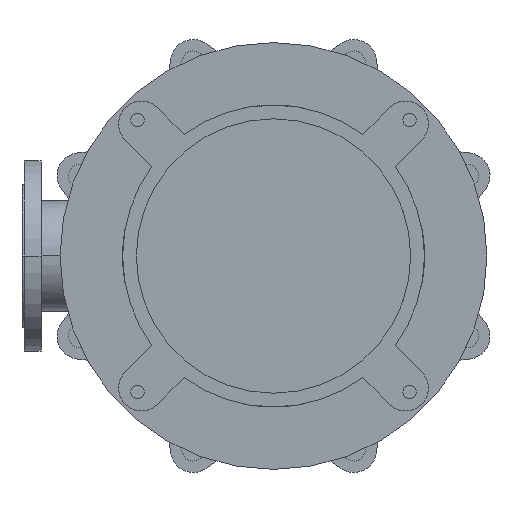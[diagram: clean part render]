
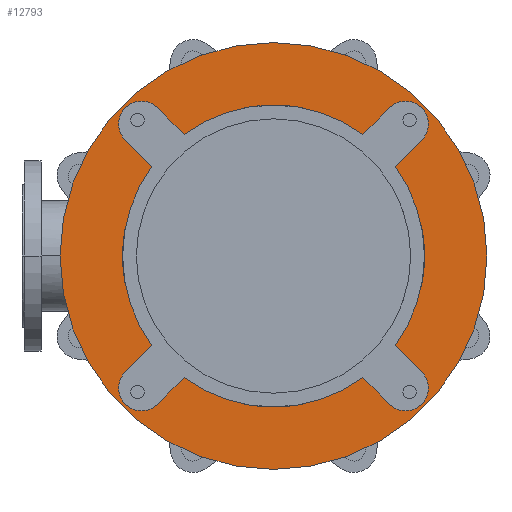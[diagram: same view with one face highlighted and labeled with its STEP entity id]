
A CAD part, front view. The second image highlights one B-rep face of the part: STEP entity #12793.
In plain terms, the highlighted planar face has unit normal (0, -1, 0).
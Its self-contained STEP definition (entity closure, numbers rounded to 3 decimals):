
#2484=CARTESIAN_POINT('',(0.,-25.,0.));
#2485=DIRECTION('',(0.,1.,0.));
#2486=DIRECTION('',(0.592,0.,-0.806));
#2487=AXIS2_PLACEMENT_3D('',#2484,#2485,#2486);
#2502=CARTESIAN_POINT('',(0.,-25.,0.));
#2503=DIRECTION('',(0.,1.,0.));
#2504=DIRECTION('',(0.806,0.,0.592));
#2505=AXIS2_PLACEMENT_3D('',#2502,#2503,#2504);
#2529=CARTESIAN_POINT('',(0.,-25.,0.));
#2530=DIRECTION('',(0.,1.,0.));
#2531=DIRECTION('',(-0.806,0.,-0.592));
#2532=AXIS2_PLACEMENT_3D('',#2529,#2530,#2531);
#2538=CARTESIAN_POINT('',(0.,-25.,0.));
#2539=DIRECTION('',(0.,1.,0.));
#2540=DIRECTION('',(-0.592,0.,0.806));
#2541=AXIS2_PLACEMENT_3D('',#2538,#2539,#2540);
#2716=CARTESIAN_POINT('',(0.,-25.,0.));
#2717=DIRECTION('',(0.,-1.,0.));
#2718=DIRECTION('',(-1.,0.,0.));
#2719=AXIS2_PLACEMENT_3D('',#2716,#2717,#2718);
#2721=CARTESIAN_POINT('',(0.,-25.,0.));
#2722=DIRECTION('',(0.,1.,0.));
#2723=DIRECTION('',(-1.,0.,0.));
#2724=AXIS2_PLACEMENT_3D('',#2721,#2722,#2723);
#2726=CARTESIAN_POINT('',(-173.241,-25.,173.241));
#2727=DIRECTION('',(0.,-1.,0.));
#2728=DIRECTION('',(0.707,0.,0.707));
#2729=AXIS2_PLACEMENT_3D('',#2726,#2727,#2728);
#2731=DIRECTION('',(0.707,0.,-0.707));
#2732=VECTOR('',#2731,49.286);
#2733=CARTESIAN_POINT('',(-194.454,-25.,152.028));
#2734=LINE('',#2733,#2732);
#2735=DIRECTION('',(-0.707,0.,-0.707));
#2736=VECTOR('',#2735,49.286);
#2737=CARTESIAN_POINT('',(-159.604,-25.,-117.178));
#2738=LINE('',#2737,#2736);
#2739=CARTESIAN_POINT('',(-173.241,-25.,-173.241));
#2740=DIRECTION('',(0.,-1.,0.));
#2741=DIRECTION('',(-0.707,0.,0.707));
#2742=AXIS2_PLACEMENT_3D('',#2739,#2740,#2741);
#2744=DIRECTION('',(0.707,0.,0.707));
#2745=VECTOR('',#2744,49.286);
#2746=CARTESIAN_POINT('',(-152.028,-25.,-194.454));
#2747=LINE('',#2746,#2745);
#2748=DIRECTION('',(0.707,0.,-0.707));
#2749=VECTOR('',#2748,49.286);
#2750=CARTESIAN_POINT('',(117.178,-25.,-159.604));
#2751=LINE('',#2750,#2749);
#2752=CARTESIAN_POINT('',(173.241,-25.,-173.241));
#2753=DIRECTION('',(0.,-1.,0.));
#2754=DIRECTION('',(-0.707,0.,-0.707));
#2755=AXIS2_PLACEMENT_3D('',#2752,#2753,#2754);
#2757=DIRECTION('',(-0.707,0.,0.707));
#2758=VECTOR('',#2757,49.286);
#2759=CARTESIAN_POINT('',(194.454,-25.,-152.028));
#2760=LINE('',#2759,#2758);
#2761=DIRECTION('',(0.707,0.,0.707));
#2762=VECTOR('',#2761,49.286);
#2763=CARTESIAN_POINT('',(159.604,-25.,117.178));
#2764=LINE('',#2763,#2762);
#2765=CARTESIAN_POINT('',(173.241,-25.,173.241));
#2766=DIRECTION('',(0.,-1.,0.));
#2767=DIRECTION('',(0.707,0.,-0.707));
#2768=AXIS2_PLACEMENT_3D('',#2765,#2766,#2767);
#2770=DIRECTION('',(-0.707,0.,-0.707));
#2771=VECTOR('',#2770,49.286);
#2772=CARTESIAN_POINT('',(152.028,-25.,194.454));
#2773=LINE('',#2772,#2771);
#2774=DIRECTION('',(-0.707,0.,0.707));
#2775=VECTOR('',#2774,49.286);
#2776=CARTESIAN_POINT('',(-117.178,-25.,159.604));
#2777=LINE('',#2776,#2775);
#8320=CARTESIAN_POINT('',(-280.,-25.,0.));
#8321=CARTESIAN_POINT('',(280.,-25.,0.));
#8322=VERTEX_POINT('',#8320);
#8323=VERTEX_POINT('',#8321);
#8344=CARTESIAN_POINT('',(-194.454,-25.,-152.028));
#8345=CARTESIAN_POINT('',(-152.028,-25.,-194.454));
#8346=VERTEX_POINT('',#8344);
#8347=VERTEX_POINT('',#8345);
#8348=CARTESIAN_POINT('',(-117.178,-25.,-159.604));
#8349=VERTEX_POINT('',#8348);
#8350=CARTESIAN_POINT('',(-159.604,-25.,-117.178));
#8351=VERTEX_POINT('',#8350);
#8360=CARTESIAN_POINT('',(152.028,-25.,-194.454));
#8361=CARTESIAN_POINT('',(194.454,-25.,-152.028));
#8362=VERTEX_POINT('',#8360);
#8363=VERTEX_POINT('',#8361);
#8364=CARTESIAN_POINT('',(159.604,-25.,-117.178));
#8365=VERTEX_POINT('',#8364);
#8366=CARTESIAN_POINT('',(117.178,-25.,-159.604));
#8367=VERTEX_POINT('',#8366);
#8376=CARTESIAN_POINT('',(194.454,-25.,152.028));
#8377=CARTESIAN_POINT('',(152.028,-25.,194.454));
#8378=VERTEX_POINT('',#8376);
#8379=VERTEX_POINT('',#8377);
#8380=CARTESIAN_POINT('',(117.178,-25.,159.604));
#8381=VERTEX_POINT('',#8380);
#8382=CARTESIAN_POINT('',(159.604,-25.,117.178));
#8383=VERTEX_POINT('',#8382);
#8392=CARTESIAN_POINT('',(-152.028,-25.,194.454));
#8393=CARTESIAN_POINT('',(-194.454,-25.,152.028));
#8394=VERTEX_POINT('',#8392);
#8395=VERTEX_POINT('',#8393);
#8396=CARTESIAN_POINT('',(-159.604,-25.,117.178));
#8397=VERTEX_POINT('',#8396);
#8398=CARTESIAN_POINT('',(-117.178,-25.,159.604));
#8399=VERTEX_POINT('',#8398);
#12753=CARTESIAN_POINT('',(0.,-25.,0.));
#12754=DIRECTION('',(0.,-1.,0.));
#12755=DIRECTION('',(-1.,0.,0.));
#12756=AXIS2_PLACEMENT_3D('',#12753,#12754,#12755);
#12757=PLANE('',#12756);
#12759=ORIENTED_EDGE('',*,*,#12758,.F.);
#12761=ORIENTED_EDGE('',*,*,#12760,.T.);
#12762=EDGE_LOOP('',(#12759,#12761));
#12763=FACE_OUTER_BOUND('',#12762,.F.);
#12765=ORIENTED_EDGE('',*,*,#12764,.T.);
#12767=ORIENTED_EDGE('',*,*,#12766,.T.);
#12768=ORIENTED_EDGE('',*,*,#12706,.F.);
#12770=ORIENTED_EDGE('',*,*,#12769,.T.);
#12772=ORIENTED_EDGE('',*,*,#12771,.T.);
#12774=ORIENTED_EDGE('',*,*,#12773,.T.);
#12775=ORIENTED_EDGE('',*,*,#12659,.F.);
#12776=ORIENTED_EDGE('',*,*,#12743,.T.);
#12778=ORIENTED_EDGE('',*,*,#12777,.T.);
#12780=ORIENTED_EDGE('',*,*,#12779,.T.);
#12781=ORIENTED_EDGE('',*,*,#12680,.F.);
#12783=ORIENTED_EDGE('',*,*,#12782,.T.);
#12785=ORIENTED_EDGE('',*,*,#12784,.T.);
#12787=ORIENTED_EDGE('',*,*,#12786,.T.);
#12788=ORIENTED_EDGE('',*,*,#12724,.F.);
#12790=ORIENTED_EDGE('',*,*,#12789,.T.);
#12791=EDGE_LOOP('',(#12765,#12767,#12768,#12770,#12772,#12774,#12775,#12776,
#12778,#12780,#12781,#12783,#12785,#12787,#12788,#12790));
#12792=FACE_BOUND('',#12791,.F.);
#12793=ADVANCED_FACE('',(#12763,#12792),#12757,.T.);
#2488=CIRCLE('',#2487,198.);
#2506=CIRCLE('',#2505,198.);
#2533=CIRCLE('',#2532,198.);
#2542=CIRCLE('',#2541,198.);
#2720=CIRCLE('',#2719,280.);
#2725=CIRCLE('',#2724,280.);
#2730=CIRCLE('',#2729,30.);
#2743=CIRCLE('',#2742,30.);
#2756=CIRCLE('',#2755,30.);
#2769=CIRCLE('',#2768,30.);
#12659=EDGE_CURVE('',#8367,#8349,#2488,.T.);
#12680=EDGE_CURVE('',#8383,#8365,#2506,.T.);
#12706=EDGE_CURVE('',#8351,#8397,#2533,.T.);
#12724=EDGE_CURVE('',#8399,#8381,#2542,.T.);
#12743=EDGE_CURVE('',#8367,#8362,#2751,.T.);
#12758=EDGE_CURVE('',#8322,#8323,#2720,.T.);
#12760=EDGE_CURVE('',#8322,#8323,#2725,.T.);
#12764=EDGE_CURVE('',#8394,#8395,#2730,.T.);
#12766=EDGE_CURVE('',#8395,#8397,#2734,.T.);
#12769=EDGE_CURVE('',#8351,#8346,#2738,.T.);
#12771=EDGE_CURVE('',#8346,#8347,#2743,.T.);
#12773=EDGE_CURVE('',#8347,#8349,#2747,.T.);
#12777=EDGE_CURVE('',#8362,#8363,#2756,.T.);
#12779=EDGE_CURVE('',#8363,#8365,#2760,.T.);
#12782=EDGE_CURVE('',#8383,#8378,#2764,.T.);
#12784=EDGE_CURVE('',#8378,#8379,#2769,.T.);
#12786=EDGE_CURVE('',#8379,#8381,#2773,.T.);
#12789=EDGE_CURVE('',#8399,#8394,#2777,.T.);
